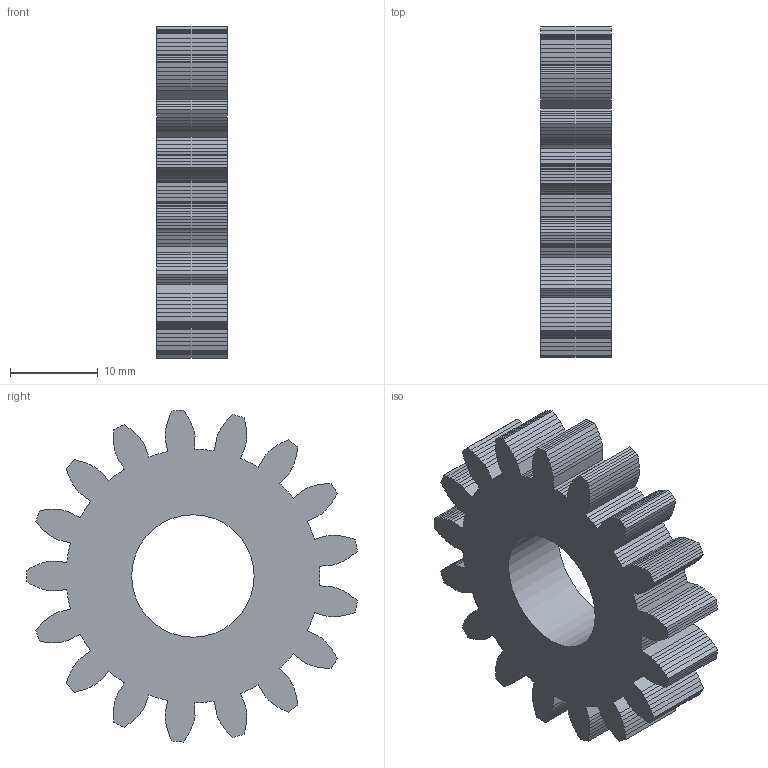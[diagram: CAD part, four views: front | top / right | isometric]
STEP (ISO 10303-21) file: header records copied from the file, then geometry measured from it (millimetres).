
FILE_DESCRIPTION(('Open CASCADE Model'),'2;1');
FILE_NAME('Open CASCADE Shape Model','2026-10-15T18:58:36',('Author'),( 'Open CASCADE'),'Open CASCADE STEP processor 7.9','Open CASCADE 7.9' ,'Unknown');
FILE_SCHEMA(('AUTOMOTIVE_DESIGN { 1 0 10303 214 1 1 1 1 }'));
Length unit declared in the file: millimetre
Products named in the file (1): Open CASCADE STEP translator 7.9 8
Bounding box: 8 x 37.79 x 37.94 mm (x, y, z)
Volume: 5811.4 mm3; surface area: 3595.3 mm2
Topology: 1 solids, 1 shells, 428 faces, 1278 edges, 852 vertices
Faces by surface type: plane 427, cylinder 1
Full cylindrical faces by diameter (mm): 14 x1
Entity records: 30718 total; most frequent: CARTESIAN_POINT 5127, DIRECTION 4692, LINE 3830, VECTOR 3830, ORIENTED_EDGE 2556, PCURVE 2556, DEFINITIONAL_REPRESENTATION 2556, EDGE_CURVE 1278
